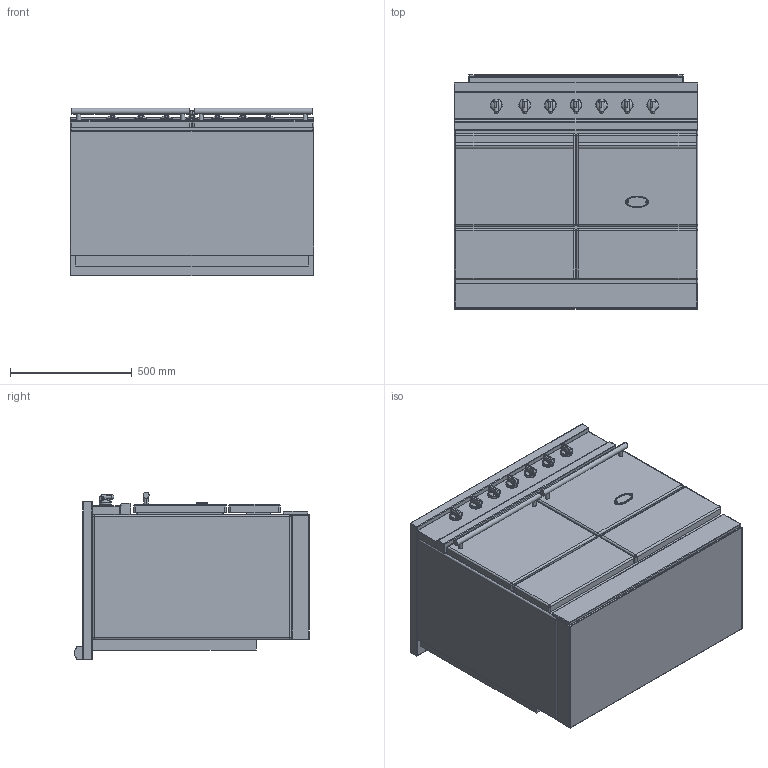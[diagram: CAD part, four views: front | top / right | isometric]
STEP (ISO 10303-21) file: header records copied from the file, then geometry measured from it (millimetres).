
FILE_DESCRIPTION((''),'2;1');
FILE_NAME('LMVI1052_ASM','2022-04-13T11:33:36',('stagiaire'),(''),'CREO PARAMETRIC BY PTC INC, 2021424','CREO PARAMETRIC BY PTC INC, 2021424','');
FILE_SCHEMA(('AP203_CONFIGURATION_CONTROLLED_3D_DESIGN_OF_MECHANICAL_PARTS_AND_ASSEMBLIES_MIM_LF { 1 0 10303 403 2 1 2 }'));
Products named in the file (12): BASE_EXPORT_CLUNY_MODERN; 65064012; 19150009; 88064012_ASM; 65049009; 65650001; BASE_EXPORT_CLUNY_MODERN_ASM; TABLE_1000_INDUCTION; 65052013; CHEMINEE_2020_LG882_EXPORT_STEP; TABLE_1000_INDUCTION_ASM; LMVI1052_ASM
Assembly tree (17 placements, depth 4):
  LMVI1052_ASM
    BASE_EXPORT_CLUNY_MODERN_ASM
      BASE_EXPORT_CLUNY_MODERN
      88064012_ASM  x7
        65064012
        19150009
      65049009
      65650001
    TABLE_1000_INDUCTION_ASM
      TABLE_1000_INDUCTION
      65052013
      CHEMINEE_2020_LG882_EXPORT_STEP
Bounding box: 1000 x 963 x 688.5 mm (x, y, z)
Volume: 539577968.1 mm3; surface area: 8914749.7 mm2
Topology: 24 solids, 24 shells, 2923 faces, 8422 edges, 5381 vertices
Faces by surface type: plane 1308, cylinder 1055, sphere 248, bspline 225, torus 51, cone 34, extrusion 2
Entity records: 88640 total; most frequent: CARTESIAN_POINT 21671, ORIENTED_EDGE 12072, DIRECTION 11543, EDGE_CURVE 6036, VECTOR 4684, LINE 4682, VERTEX_POINT 3921, AXIS2_PLACEMENT_3D 3413
